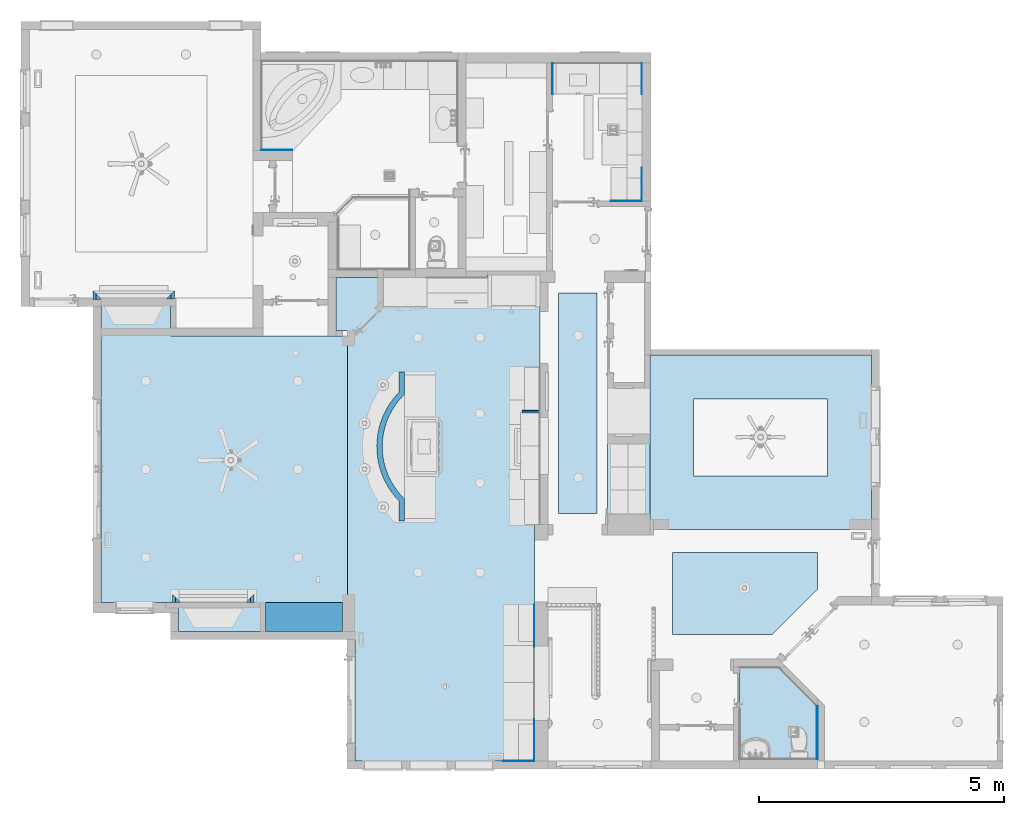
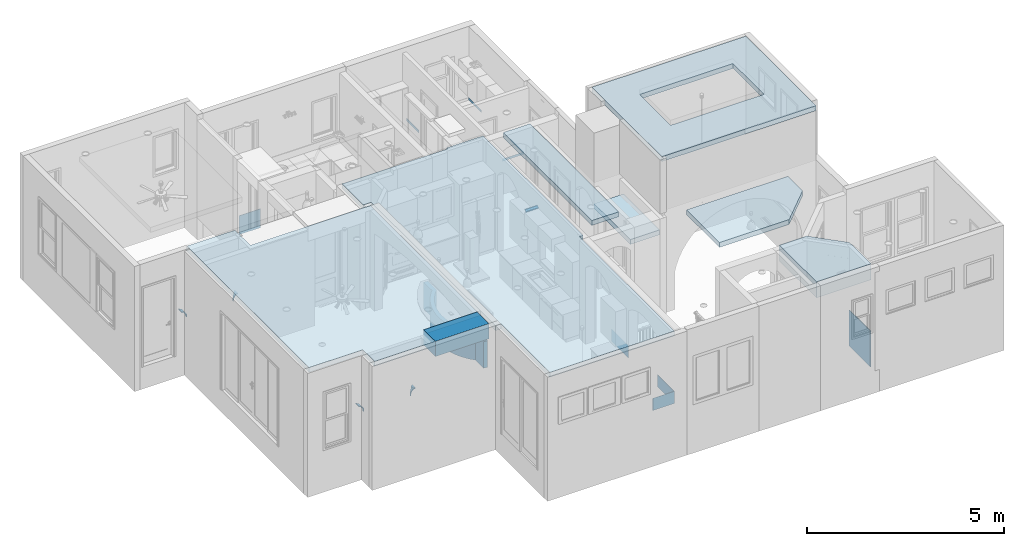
# One storey, part 4 of 77: 14 beams, 9 slabs.
"""IFC2X3 building model written with IfcOpenShell, lengths in inches."""

from ifc_helpers import new_model, entity, si_unit, converted_unit, derived_unit, money_unit, direction, frame, origin_with_axes, place, context, subcontext, project, spatial, faceted_brep, material, type_object, element, save


model = new_model("IFC2X3")

# Units and contexts
model_context = context("Model", 3, precision=0.000393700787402, world=origin_with_axes(), true_north=direction((0.0, 1.0)))
body_context = subcontext(model_context, "Body", "Model", "MODEL_VIEW")
ifc_project = project(units=[converted_unit("LENGTHUNIT", "INCH", entity("IfcPositiveLengthMeasure", 0.0254), si_unit("LENGTHUNIT", "METRE"), dimensions=[1, 0, 0, 0, 0, 0, 0]), converted_unit("AREAUNIT", "SQUARE_FOOT", entity("IfcPositiveLengthMeasure", 0.09290304), si_unit("AREAUNIT", "SQUARE_METRE"), dimensions=[2, 0, 0, 0, 0, 0, 0]), si_unit("PLANEANGLEUNIT", "RADIAN"), si_unit("SOLIDANGLEUNIT", "STERADIAN"), money_unit("USD"), converted_unit("TIMEUNIT", "Year", entity("IfcTimeMeasure", 31556926.0), si_unit("TIMEUNIT", "SECOND"), dimensions=[0, 0, 1, 0, 0, 0, 0]), si_unit("MASSUNIT", "GRAM", prefix="KILO"), si_unit("THERMODYNAMICTEMPERATUREUNIT", "DEGREE_CELSIUS"), si_unit("LUMINOUSINTENSITYUNIT", "LUMEN"), si_unit("ENERGYUNIT", "JOULE", prefix="MEGA"), derived_unit("THERMALCONDUCTANCEUNIT", [(si_unit("POWERUNIT", "WATT"), 1), (si_unit("LENGTHUNIT", "METRE"), -1), (si_unit("THERMODYNAMICTEMPERATUREUNIT", "KELVIN"), -1)]), derived_unit("SPECIFICHEATCAPACITYUNIT", [(si_unit("ENERGYUNIT", "JOULE"), 1), (si_unit("MASSUNIT", "GRAM", prefix="KILO"), -1), (si_unit("THERMODYNAMICTEMPERATUREUNIT", "KELVIN"), -1)]), derived_unit("MASSDENSITYUNIT", [(si_unit("MASSUNIT", "GRAM", prefix="KILO"), 1), (si_unit("VOLUMEUNIT", "CUBIC_METRE"), -1)])], contexts=[model_context])

# Site, building, storey
site_placement = place(None, origin_with_axes())
site = spatial("IfcSite", under=ifc_project, at=site_placement, Name="Site", CompositionType="ELEMENT")
building_placement = place(site_placement, origin_with_axes())
building = spatial("IfcBuilding", under=site, at=building_placement, Name="Building", CompositionType="ELEMENT")
storey_placement = place(building_placement, frame((0.0, 0.0, 127.952755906), z_axis=(0.0, 0.0, 1.0), x_axis=(1.0, 0.0, 0.0)))
storey = spatial("IfcBuildingStorey", under=building, at=storey_placement, Name="Second Floor", CompositionType="ELEMENT", Elevation=127.953)

# Beams
ifc_material_1 = material(Name="Generic - Structural")
beam_type_1 = type_object("IfcBeamType", Name="Plaster Cornice/Coving 65 x 65", PredefinedType="NOTDEFINED")
beam_1_placement = place(storey_placement, frame((637.476568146, 299.514838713, 105.504011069), z_axis=(0.0, 0.0, 1.0), x_axis=(0.0, 1.0, 0.0)))
element("IfcBeam", 1, at=beam_1_placement, inside=storey, type_object=beam_type_1, material=ifc_material_1, Name="BMR - 041", context=body_context, shape_type="Brep", body=[
    faceted_brep([(2.5592031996, 0.0, 0.0), (2.5592031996, 14.4869247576, 0.0), (1.49914652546, 14.4869247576, 0.0), (1.49914652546, 0.0, 0.0), (2.5592031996, 0.0, -0.319891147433), (2.5592031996, 14.4869247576, -0.319891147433), (1.8672290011, 14.4869247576, -0.429478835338), (1.24298688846, 14.4869247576, -0.747534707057), (0.74758202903, 14.4869247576, -1.24292523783), (0.429508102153, 14.4869247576, -1.86715815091), (0.31990039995, 14.4869247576, -2.55912917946), (0.0, 14.4869247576, -2.55912917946), (0.0, 14.4869247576, -1.49910316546), (0.0, 0.0, -1.49910316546), (0.0, 0.0, -2.55912917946), (0.31990039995, 0.0, -2.55912917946), (0.429508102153, 0.0, -1.86715815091), (0.74758202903, 0.0, -1.24292523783), (1.24298688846, 0.0, -0.747534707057), (1.8672290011, 0.0, -0.429478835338)], [[[0, 1, 2, 3]], [[4, 5, 1, 0]], [[2, 1, 5, 6, 7, 8, 9, 10, 11, 12]], [[3, 2, 12, 13]], [[4, 0, 3, 13, 14, 15, 16, 17, 18, 19]], [[19, 6, 5, 4]], [[18, 7, 6, 19]], [[17, 8, 7, 18]], [[16, 9, 8, 17]], [[15, 10, 9, 16]], [[14, 11, 10, 15]], [[13, 12, 11, 14]]]),
])
ifc_material_2 = material(Name="Tile - Wall")
beam_type_2 = type_object("IfcBeamType", Name="Tile - Wall 15 x 1120", PredefinedType="NOTDEFINED")
beam_2_placement = place(storey_placement, frame((860.908419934, 20.7811880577, 0.0), z_axis=(0.0, 0.0, 1.0), x_axis=(1.0, 0.0, 0.0)))
element("IfcBeam", 2, at=beam_2_placement, inside=storey, type_object=beam_type_2, material=ifc_material_2, Name="BMR - 113", context=body_context, shape_type="Brep", body=[
    faceted_brep([(0.0, 0.0, 44.094488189), (0.0, 0.0, 0.0157480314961), (0.0, 42.8179321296, 0.0157480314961), (0.0, 42.8179321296, 44.094488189), (-0.590551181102, 0.590551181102, 44.094488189), (-0.590551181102, 0.590551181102, 0.0157480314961), (-0.590551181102, 42.6373262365, 0.0157480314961), (-0.0452453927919, 42.8632614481, 0.0157480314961), (-0.0452453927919, 42.8632614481, 44.094488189), (-0.590551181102, 42.6373262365, 44.094488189)], [[[0, 1, 2, 3]], [[4, 5, 1, 0]], [[6, 7, 2, 1, 5]], [[3, 2, 7, 8]], [[4, 0, 3, 8, 9]], [[9, 6, 5, 4]], [[8, 7, 6, 9]]]),
])
beam_type_3 = type_object("IfcBeamType", Name="Plaster Cornice/Coving 150 x 205", PredefinedType="NOTDEFINED")
beam_3_placement = place(storey_placement, frame((401.338774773, 147.656946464, 57.0866141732), z_axis=(0.0, 0.0, 1.0), x_axis=(-1.0, 0.0, 0.0)))
element("IfcBeam", 3, at=beam_3_placement, inside=storey, type_object=beam_type_3, material=ifc_material_1, Name="BMR - 041", context=body_context, shape_type="Brep", body=[
    faceted_brep([(-5.90552638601, -5.90552638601, -1.0088593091), (-5.90552638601, 0.719655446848, -1.0088593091), (-4.88176828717, 0.719655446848, -1.14877721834), (-4.88176828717, -4.88176828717, -1.14877721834), (-5.90552638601, -5.90552638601, 0.0), (-5.90552638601, 0.719655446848, 0.0), (-3.45937726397, 0.719655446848, 0.0), (0.0, 0.719655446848, -4.72780880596), (0.0, 0.719655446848, -8.07087447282), (-0.738190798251, 0.719655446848, -8.07087447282), (-0.835718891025, 0.719655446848, -6.70518667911), (-1.13153079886, 0.719655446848, -5.36835827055), (-1.5951648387, 0.719655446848, -4.17566887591), (-2.25166835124, 0.719655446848, -3.07727566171), (-3.00852865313, 0.719655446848, -2.22277367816), (-3.9280726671, 0.719655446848, -1.54642320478), (-3.9280726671, -3.9280726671, -1.54642320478), (-3.00852865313, -3.00852865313, -2.22277367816), (-2.25166835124, -2.25166835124, -3.07727566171), (-1.5951648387, -1.5951648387, -4.17566887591), (-1.13153079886, -1.13153079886, -5.36835827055), (-0.835718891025, -0.835718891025, -6.70518667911), (-0.738190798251, -0.738190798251, -8.07087447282), (0.0, 0.0, -8.07087447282), (0.0, 0.0, -4.72780880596), (-3.45937726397, -3.45937726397, 0.0)], [[[0, 1, 2, 3]], [[4, 5, 1, 0]], [[2, 1, 5, 6, 7, 8, 9, 10, 11, 12, 13, 14, 15]], [[3, 2, 15, 16]], [[4, 0, 3, 16, 17, 18, 19, 20, 21, 22, 23, 24, 25]], [[25, 6, 5, 4]], [[24, 7, 6, 25]], [[23, 8, 7, 24]], [[22, 9, 8, 23]], [[21, 10, 9, 22]], [[20, 11, 10, 21]], [[19, 12, 11, 20]], [[18, 13, 12, 19]], [[17, 14, 13, 18]], [[16, 15, 14, 17]]]),
])
beam_4_placement = place(storey_placement, frame((283.880866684, 390.689598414, 46.8503937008), z_axis=(0.0, 0.0, 1.0), x_axis=(1.0, -4.61206149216e-08, 0.0)))
element("IfcBeam", 4, at=beam_4_placement, inside=storey, type_object=beam_type_3, material=ifc_material_1, Name="BMR - 041", context=body_context, shape_type="Brep", body=[
    faceted_brep([(-5.90552638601, 0.0, -1.0088593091), (-5.90552638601, 7.12309997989, -1.0088593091), (-4.88176828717, 6.09934192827, -1.14877721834), (-4.88176828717, 0.0, -1.14877721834), (-5.90552638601, 0.0, 0.0), (-5.90552638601, 7.12309997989, 0.0), (-3.45937726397, 4.67695097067, 0.0), (0.0, 1.21757386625, -4.72780880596), (0.0, 1.21757386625, -8.07087447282), (-0.738190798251, 1.95576463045, -8.07087447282), (-0.835718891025, 2.05329271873, -6.70518667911), (-1.13153079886, 2.34910461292, -5.36835827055), (-1.5951648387, 2.81273863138, -4.17566887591), (-2.25166835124, 3.46924211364, -3.07727566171), (-3.00852865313, 4.22610238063, -2.22277367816), (-3.9280726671, 5.14564635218, -1.54642320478), (-3.9280726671, 0.0, -1.54642320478), (-3.00852865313, 0.0, -2.22277367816), (-2.25166835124, 0.0, -3.07727566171), (-1.5951648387, 0.0, -4.17566887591), (-1.13153079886, 0.0, -5.36835827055), (-0.835718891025, 0.0, -6.70518667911), (-0.738190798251, 0.0, -8.07087447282), (0.0, 0.0, -8.07087447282), (0.0, 0.0, -4.72780880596), (-3.45937726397, 0.0, 0.0)], [[[0, 1, 2, 3]], [[4, 5, 1, 0]], [[2, 1, 5, 6, 7, 8, 9, 10, 11, 12, 13, 14, 15]], [[3, 2, 15, 16]], [[4, 0, 3, 16, 17, 18, 19, 20, 21, 22, 23, 24, 25]], [[25, 6, 5, 4]], [[24, 7, 6, 25]], [[23, 8, 7, 24]], [[22, 9, 8, 23]], [[21, 10, 9, 22]], [[20, 11, 10, 21]], [[19, 12, 11, 20]], [[18, 13, 12, 19]], [[17, 14, 13, 18]], [[16, 15, 14, 17]]]),
])
beam_5_placement = place(storey_placement, frame((347.850842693, 146.800922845, 57.0866141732), z_axis=(0.0, 0.0, 1.0), x_axis=(1.0, -4.61206549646e-08, 0.0)))
element("IfcBeam", 5, at=beam_5_placement, inside=storey, type_object=beam_type_3, material=ifc_material_1, Name="BMR - 041", context=body_context, shape_type="Brep", body=[
    faceted_brep([(-5.90552638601, 0.0, -1.0088593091), (-5.90552638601, 6.76154973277, -1.0088593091), (-4.88176828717, 5.73779168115, -1.14877721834), (-4.88176828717, 0.0, -1.14877721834), (-5.90552638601, 0.0, 0.0), (-5.90552638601, 6.76154973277, 0.0), (-3.45937726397, 4.31540072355, 0.0), (0.0, 0.856023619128, -4.72780880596), (0.0, 0.856023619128, -8.07087447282), (-0.738190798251, 1.59421438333, -8.07087447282), (-0.835718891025, 1.69174247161, -6.70518667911), (-1.13153079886, 1.9875543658, -5.36835827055), (-1.5951648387, 2.45118838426, -4.17566887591), (-2.25166835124, 3.10769186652, -3.07727566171), (-3.00852865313, 3.86455213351, -2.22277367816), (-3.9280726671, 4.78409610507, -1.54642320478), (-3.9280726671, 0.0, -1.54642320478), (-3.00852865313, 0.0, -2.22277367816), (-2.25166835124, 0.0, -3.07727566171), (-1.5951648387, 0.0, -4.17566887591), (-1.13153079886, 0.0, -5.36835827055), (-0.835718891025, 0.0, -6.70518667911), (-0.738190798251, 0.0, -8.07087447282), (0.0, 0.0, -8.07087447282), (0.0, 0.0, -4.72780880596), (-3.45937726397, 0.0, 0.0)], [[[0, 1, 2, 3]], [[4, 5, 1, 0]], [[2, 1, 5, 6, 7, 8, 9, 10, 11, 12, 13, 14, 15]], [[3, 2, 15, 16]], [[4, 0, 3, 16, 17, 18, 19, 20, 21, 22, 23, 24, 25]], [[25, 6, 5, 4]], [[24, 7, 6, 25]], [[23, 8, 7, 24]], [[22, 9, 8, 23]], [[21, 10, 9, 22]], [[20, 11, 10, 21]], [[19, 12, 11, 20]], [[18, 13, 12, 19]], [[17, 14, 13, 18]], [[16, 15, 14, 17]]]),
])
beam_6_placement = place(storey_placement, frame((337.36879878, 391.90717228, 46.8503937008), z_axis=(0.0, 0.0, 1.0), x_axis=(-1.0, 3.60545296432e-07, 0.0)))
element("IfcBeam", 6, at=beam_6_placement, inside=storey, type_object=beam_type_3, material=ifc_material_1, Name="BMR - 041", context=body_context, shape_type="Brep", body=[
    faceted_brep([(-5.90552638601, -5.90552851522, -1.0088593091), (-5.90552638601, 0.719655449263, -1.0088593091), (-4.88176828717, 0.719655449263, -1.14877721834), (-4.88176828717, -4.88177004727, -1.14877721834), (-5.90552638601, -5.90552851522, 0.0), (-5.90552638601, 0.719655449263, 0.0), (-3.45937726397, 0.719655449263, 0.0), (0.0, 0.719655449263, -4.72780880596), (0.0, 0.719655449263, -8.07087447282), (-0.738190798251, 0.719655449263, -8.07087447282), (-0.835718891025, 0.719655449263, -6.70518667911), (-1.13153079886, 0.719655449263, -5.36835827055), (-1.5951648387, 0.719655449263, -4.17566887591), (-2.25166835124, 0.719655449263, -3.07727566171), (-3.00852865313, 0.719655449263, -2.22277367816), (-3.9280726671, 0.719655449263, -1.54642320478), (-3.9280726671, -3.92807408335, -1.54642320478), (-3.00852865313, -3.00852973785, -2.22277367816), (-2.25166835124, -2.25166916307, -3.07727566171), (-1.5951648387, -1.59516541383, -4.17566887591), (-1.13153079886, -1.13153120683, -5.36835827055), (-0.835718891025, -0.83571919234, -6.70518667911), (-0.738190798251, -0.738191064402, -8.07087447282), (0.0, 0.0, -8.07087447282), (0.0, 0.0, -4.72780880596), (-3.45937726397, -3.45937851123, 0.0)], [[[0, 1, 2, 3]], [[4, 5, 1, 0]], [[2, 1, 5, 6, 7, 8, 9, 10, 11, 12, 13, 14, 15]], [[3, 2, 15, 16]], [[4, 0, 3, 16, 17, 18, 19, 20, 21, 22, 23, 24, 25]], [[25, 6, 5, 4]], [[24, 7, 6, 25]], [[23, 8, 7, 24]], [[22, 9, 8, 23]], [[21, 10, 9, 22]], [[20, 11, 10, 21]], [[19, 12, 11, 20]], [[18, 13, 12, 19]], [[17, 14, 13, 18]], [[16, 15, 14, 17]]]),
])
beam_type_4 = type_object("IfcBeamType", Name="Tile - Wall 5 x 380", PredefinedType="NOTDEFINED")
beam_7_placement = place(storey_placement, frame((607.989643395, 19.4071723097, 36.0236220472), z_axis=(0.0, 0.0, 1.0), x_axis=(1.70476248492e-05, -0.999999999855, 0.0)))
element("IfcBeam", 7, at=beam_7_placement, inside=storey, type_object=beam_type_4, material=ifc_material_2, Name="BMR - 041", context=body_context, shape_type="Brep", body=[
    faceted_brep([(-0.196850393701, 24.7795309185, 14.9606299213), (-0.196850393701, 0.0, 14.9606299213), (0.0, 0.0, 14.9606299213), (0.0004220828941, 24.7795275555, 14.9606299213), (-0.196850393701, 24.7795309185, 0.0), (-0.196850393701, 0.0, 0.0), (0.0, 0.0, 0.0), (0.0004220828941, 24.7795275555, 0.0)], [[[0, 1, 2, 3]], [[4, 5, 1, 0]], [[5, 6, 2, 1]], [[3, 2, 6, 7]], [[0, 3, 7, 4]], [[7, 6, 5, 4]]]),
])
beam_8_placement = place(storey_placement, frame((632.966021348, 110.907172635, 36.0236220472), z_axis=(0.0, 0.0, 1.0), x_axis=(1.0, 0.0, 0.0)))
element("IfcBeam", 8, at=beam_8_placement, inside=storey, type_object=beam_type_4, material=ifc_material_2, Name="BMR - 041", context=body_context, shape_type="Brep", body=[
    faceted_brep([(-0.196850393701, 0.0, 0.0), (-0.196850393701, 34.4488188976, 0.0), (0.0, 34.4488188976, 0.0), (0.0, 0.0, 0.0), (-0.196850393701, 0.0, 14.9606299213), (-0.196850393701, 34.4488188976, 14.9606299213), (0.0, 34.4488188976, 14.9606299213), (0.0, 0.0, 14.9606299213)], [[[0, 1, 2, 3]], [[4, 5, 1, 0]], [[2, 1, 5, 6]], [[3, 2, 6, 7]], [[4, 0, 3, 7]], [[7, 6, 5, 4]]]),
])
beam_9_placement = place(storey_placement, frame((632.966021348, 19.4071726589, 36.0236220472), z_axis=(0.0, 0.0, 1.0), x_axis=(1.0, 0.0, 0.0)))
element("IfcBeam", 9, at=beam_9_placement, inside=storey, type_object=beam_type_4, material=ifc_material_2, Name="BMR - 041", context=body_context, shape_type="Brep", body=[
    faceted_brep([(-0.196850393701, 33.4645669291, 14.9606299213), (-0.196850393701, 0.000423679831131, 14.9606299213), (0.0, 0.000424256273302, 14.9606299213), (0.0, 33.4645669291, 14.9606299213), (-0.196850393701, 33.4645669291, 0.0), (-0.196850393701, 0.000423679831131, 0.0), (0.0, 0.000424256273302, 0.0), (0.0, 33.4645669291, 0.0)], [[[0, 1, 2, 3]], [[4, 5, 1, 0]], [[5, 6, 2, 1]], [[3, 2, 6, 7]], [[3, 7, 4, 0]], [[7, 6, 5, 4]]]),
])
beam_type_5 = type_object("IfcBeamType", Name="Tile - Wall 6 x 76", PredefinedType="NOTDEFINED")
beam_10_placement = place(storey_placement, frame((719.519445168, 555.90717231, 36.0), z_axis=(0.0, 0.0, 1.0), x_axis=(1.0, 5.35865912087e-07, 0.0)))
element("IfcBeam", 10, at=beam_10_placement, inside=storey, type_object=beam_type_5, material=ifc_material_2, Name="BMR - 041", context=body_context, shape_type="Brep", body=[
    faceted_brep([(0.0, 0.0, 0.0), (-0.25, 0.0, 0.0), (-0.25, 24.8572540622, 0.0), (0.0, 25.1072539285, 0.0), (0.0, 0.0, 3.0), (-0.25, 0.0, 3.0), (-0.25, 24.8572540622, 3.0), (0.0, 25.1072539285, 3.0)], [[[0, 1, 2, 3]], [[4, 5, 1, 0]], [[1, 5, 6, 2]], [[7, 3, 2, 6]], [[4, 0, 3, 7]], [[5, 4, 7, 6]]]),
])
beam_11_placement = place(storey_placement, frame((719.519431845, 470.00831258, 37.0), z_axis=(0.0, 0.0, 1.0), x_axis=(0.999999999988, 4.87299832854e-06, 0.0)))
element("IfcBeam", 11, at=beam_11_placement, inside=storey, type_object=beam_type_5, material=ifc_material_2, Name="BMR - 041", context=body_context, shape_type="Brep", body=[
    faceted_brep([(-0.25, 0.250001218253, 0.0), (-0.25, 26.9301097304, 0.0), (0.0, 26.9301097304, 0.0), (0.0, 0.0, 0.0), (-0.25, 0.250001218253, 3.0), (-0.25, 26.9301097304, 3.0), (0.0, 26.9301097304, 3.0), (0.0, 0.0, 3.0)], [[[0, 1, 2, 3]], [[4, 5, 1, 0]], [[2, 1, 5, 6]], [[3, 2, 6, 7]], [[4, 0, 3, 7]], [[7, 6, 5, 4]]]),
])
beam_12_placement = place(storey_placement, frame((694.489459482, 470.00831258, 37.0), z_axis=(0.0, 0.0, 1.0), x_axis=(0.0, -1.0, 0.0)))
element("IfcBeam", 12, at=beam_12_placement, inside=storey, type_object=beam_type_5, material=ifc_material_2, Name="BMR - 041", context=body_context, shape_type="Brep", body=[
    faceted_brep([(-0.25, 0.0, 0.0), (-0.25, 24.7799711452, 0.0), (0.0, 25.0299723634, 0.0), (0.0, 0.0, 0.0), (-0.25, 0.0, 3.0), (-0.25, 24.7799711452, 3.0), (0.0, 25.0299723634, 3.0), (0.0, 0.0, 3.0)], [[[0, 1, 2, 3]], [[4, 5, 1, 0]], [[2, 1, 5, 6]], [[3, 2, 6, 7]], [[4, 0, 3, 7]], [[7, 6, 5, 4]]]),
])
beam_13_placement = place(storey_placement, frame((647.489643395, 581.014426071, 36.0), z_axis=(0.0, 0.0, 1.0), x_axis=(-1.0, -5.40890327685e-07, 0.0)))
element("IfcBeam", 13, at=beam_13_placement, inside=storey, type_object=beam_type_5, material=ifc_material_2, Name="BMR - 041", context=body_context, shape_type="Brep", body=[
    faceted_brep([(-0.25, 0.250000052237, 0.0), (-0.25, 25.0760037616, 0.0), (0.0, 25.0760037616, 0.0), (0.0, -8.26924180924e-08, 0.0), (-0.25, 0.250000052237, 3.0), (-0.25, 25.0760037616, 3.0), (0.0, 25.0760037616, 3.0), (0.0, -8.26924180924e-08, 3.0)], [[[0, 1, 2, 3]], [[4, 5, 1, 0]], [[2, 1, 5, 6]], [[3, 2, 6, 7]], [[4, 0, 3, 7]], [[7, 6, 5, 4]]]),
])
beam_type_6 = type_object("IfcBeamType", Name="Tile - Wall 15 x 585", PredefinedType="NOTDEFINED")
beam_14_placement = place(storey_placement, frame((413.239643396, 510.813300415, 20.9999999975), z_axis=(0.0, 0.0, 1.0), x_axis=(0.0, -1.0, 0.0)))
element("IfcBeam", 14, at=beam_14_placement, inside=storey, type_object=beam_type_6, material=ifc_material_2, Name="BMR - 115", context=body_context, shape_type="Brep", body=[
    faceted_brep([(-0.590551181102, 0.590551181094, 0.0), (-0.590551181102, 25.0, 0.0), (0.0, 25.0, 0.0), (0.0, 0.0, 0.0), (-0.590551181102, 0.590551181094, 23.031496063), (-0.590551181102, 25.0, 23.031496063), (0.0, 25.0, 23.031496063), (0.0, 0.0, 23.031496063)], [[[0, 1, 2, 3]], [[4, 5, 1, 0]], [[2, 1, 5, 6]], [[3, 2, 6, 7]], [[4, 0, 3, 7]], [[7, 6, 5, 4]]]),
])

# Slabs
slab_type_1 = type_object("IfcSlabType", Name="Generic - Structural 495", PredefinedType="FLOOR")
slab_1_placement = place(storey_placement, frame((797.915918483, 20.7811881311, 106.5), z_axis=(0.0, 0.0, 1.0), x_axis=(1.0, 0.0, 0.0)))
element("IfcSlab", 15, at=slab_1_placement, inside=storey, type_object=slab_type_1, material=ifc_material_1, Name="SLA - 009", PredefinedType="FLOOR", context=body_context, shape_type="Brep", body=[
    faceted_brep([(0.0, 0.0, 19.5), (0.0, 0.0, 0.0), (62.9925014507, -7.34150841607e-08, 0.0), (62.9925014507, -7.34150841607e-08, 19.5), (0.00241960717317, 74.2118674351, 19.5), (0.00241960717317, 74.2118674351, 0.0), (31.6514605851, 74.2108543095, 0.0), (62.9925014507, 42.8820077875, 0.0), (62.9925014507, 42.8820077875, 19.5), (31.6514605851, 74.2108543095, 19.5)], [[[0, 1, 2, 3]], [[4, 5, 1, 0]], [[2, 1, 5, 6, 7]], [[3, 2, 7, 8]], [[4, 0, 3, 8, 9]], [[9, 6, 5, 4]], [[8, 7, 6, 9]]]),
])
slab_type_2 = type_object("IfcSlabType", Name="Generic - Structural 150", PredefinedType="FLOOR")
slab_2_placement = place(storey_placement, frame((473.469157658, 365.907173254, 118.503937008), z_axis=(0.0, 0.0, 1.0), x_axis=(1.0, 0.0, 0.0)))
element("IfcSlab", 16, at=slab_2_placement, inside=storey, type_object=slab_type_2, material=ifc_material_1, Name="SLA - 010", PredefinedType="FLOOR", context=body_context, shape_type="Brep", body=[
    faceted_brep([(0.0, 0.0, 5.90551181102), (0.0, 0.0, 0.0), (8.97126250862, 0.0, 0.0), (8.97126250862, 0.0, 5.90551181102), (0.0, 42.500907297, 5.90551181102), (0.0, 42.500907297, 0.0), (122.000016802, 42.500907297, 0.0), (121.999999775, 44.5009096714, 0.0), (163.992486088, 44.4541121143, 0.0), (164.010541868, 15.2505387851, 0.0), (164.00707263, -26.4817445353, 0.0), (164.000000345, -156.035432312, 0.0), (159.476380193, -156.035432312, 0.0), (159.496863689, -218.500000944, 0.0), (159.500002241, -346.499999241, 0.0), (15.3826389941, -346.499979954, 0.0), (15.3825801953, -248.999913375, 0.0), (9.00118501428, -248.999999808, 0.0), (9.00118501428, -248.999999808, 5.90551181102), (15.3825801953, -248.999913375, 5.90551181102), (15.3826389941, -346.499979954, 5.90551181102), (159.500002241, -346.499999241, 5.90551181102), (159.496863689, -218.500000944, 5.90551181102), (159.476380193, -156.035432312, 5.90551181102), (164.000000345, -156.035432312, 5.90551181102), (164.00707263, -26.4817445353, 5.90551181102), (164.010541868, 15.2505387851, 5.90551181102), (163.992486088, 44.4541121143, 5.90551181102), (121.999999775, 44.5009096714, 5.90551181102), (122.000016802, 42.500907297, 5.90551181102)], [[[0, 1, 2, 3]], [[4, 5, 1, 0]], [[2, 1, 5, 6, 7, 8, 9, 10, 11, 12, 13, 14, 15, 16, 17]], [[3, 2, 17, 18]], [[4, 0, 3, 18, 19, 20, 21, 22, 23, 24, 25, 26, 27, 28, 29]], [[29, 6, 5, 4]], [[28, 7, 6, 29]], [[27, 8, 7, 28]], [[26, 9, 8, 27]], [[25, 10, 9, 26]], [[24, 11, 10, 25]], [[23, 12, 11, 24]], [[22, 13, 12, 23]], [[21, 14, 13, 22]], [[20, 15, 14, 21]], [[19, 16, 15, 20]], [[18, 17, 16, 19]]]),
])
slab_3_placement = place(storey_placement, frame((340.239642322, 391.907093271, 118.503937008), z_axis=(0.0, 0.0, 1.0), x_axis=(1.0, 0.0, 0.0)))
element("IfcSlab", 17, at=slab_3_placement, inside=storey, type_object=slab_type_2, material=ifc_material_1, Name="SLA - 014", PredefinedType="FLOOR", context=body_context, shape_type="Brep", body=[
    faceted_brep([(0.0, 0.0, 5.90551181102), (0.0, 0.0, 0.0), (-55.9060667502, 8.05895860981e-05, 0.0), (-55.9060667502, 8.05895860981e-05, 5.90551181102), (0.0, -30.4999209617, 5.90551181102), (0.0, -30.4999209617, 0.0), (74.5718799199, -30.5342596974, 0.0), (126.754655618, -30.5274800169, 0.0), (142.221270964, -30.5267829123, 0.0), (142.251529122, -244.743791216, 0.0), (76.5715813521, -244.74424546, 0.0), (76.5708383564, -268.359895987, 0.0), (6.31667133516, -268.362611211, 0.0), (6.25000061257, -244.744645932, 0.0), (-55.904634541, -244.744645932, 0.0), (-55.9061772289, -30.5006363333, 0.0), (-55.9059264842, -24.0006363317, 0.0), (-55.9059264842, -24.0006363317, 5.90551181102), (-55.9061772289, -30.5006363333, 5.90551181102), (-55.904634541, -244.744645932, 5.90551181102), (6.25000061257, -244.744645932, 5.90551181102), (6.31667133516, -268.362611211, 5.90551181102), (76.5708383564, -268.359895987, 5.90551181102), (76.5715813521, -244.74424546, 5.90551181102), (142.251529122, -244.743791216, 5.90551181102), (142.221270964, -30.5267829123, 5.90551181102), (126.754655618, -30.5274800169, 5.90551181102), (74.5718799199, -30.5342596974, 5.90551181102)], [[[0, 1, 2, 3]], [[4, 5, 1, 0]], [[2, 1, 5, 6, 7, 8, 9, 10, 11, 12, 13, 14, 15, 16]], [[3, 2, 16, 17]], [[4, 0, 3, 17, 18, 19, 20, 21, 22, 23, 24, 25, 26, 27]], [[27, 6, 5, 4]], [[26, 7, 6, 27]], [[25, 8, 7, 26]], [[24, 9, 8, 25]], [[23, 10, 9, 24]], [[22, 11, 10, 23]], [[21, 12, 11, 22]], [[20, 13, 12, 21]], [[19, 14, 13, 20]], [[18, 15, 14, 19]], [[17, 16, 15, 18]]]),
])
slab_4_placement = place(storey_placement, frame((725.989643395, 205.615874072, 186.023622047), z_axis=(0.0, 0.0, 1.0), x_axis=(1.0, 0.0, 0.0)))
element("IfcSlab", 18, at=slab_4_placement, inside=storey, type_object=slab_type_2, material=ifc_material_1, Name="SLA - 007", PredefinedType="FLOOR", context=body_context, shape_type="Brep", body=[
    faceted_brep([(0.0, 0.0, 5.90551181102), (0.0, 0.0, 0.0), (178.230488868, -0.00709961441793, 0.0), (178.230488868, -0.00709961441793, 5.90551181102), (0.0, 113.791298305, 5.90551181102), (0.0, 113.791298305, 0.0), (0.036260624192, 113.790939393, 0.0), (0.0376603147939, 140.355878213, 0.0), (178.233907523, 140.35292105, 0.0), (143.00000149, 105.291297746, 0.0), (34.9999985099, 105.291297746, 0.0), (34.9999985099, 43.2912977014, 0.0), (143.00000149, 43.2912977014, 0.0), (178.233907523, 140.35292105, 5.90551181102), (0.0376603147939, 140.355878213, 5.90551181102), (0.036260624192, 113.790939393, 5.90551181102), (34.9999985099, 43.2912977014, 5.90551181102), (34.9999985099, 105.291297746, 5.90551181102), (143.00000149, 105.291297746, 5.90551181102), (143.00000149, 43.2912977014, 5.90551181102)], [[[0, 1, 2, 3]], [[4, 5, 1, 0]], [[2, 1, 5, 6, 7, 8], [9, 10, 11, 12]], [[3, 2, 8, 13]], [[0, 3, 13, 14, 15, 4], [16, 17, 18, 19]], [[15, 6, 5, 4]], [[14, 7, 6, 15]], [[13, 8, 7, 14]], [[17, 10, 9, 18]], [[16, 11, 10, 17]], [[19, 12, 11, 16]], [[18, 9, 12, 19]]]),
])
slab_5_placement = place(storey_placement, frame((691.989643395, 209.938422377, 94.094488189), z_axis=(0.0, 0.0, 1.0), x_axis=(1.0, 0.0, 0.0)))
element("IfcSlab", 19, at=slab_5_placement, inside=storey, type_object=slab_type_2, material=ifc_material_1, Name="SLA - 008", PredefinedType="FLOOR", context=body_context, shape_type="Brep", body=[
    faceted_brep([(0.0, 0.0, 5.90551181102), (0.0, 0.0, 0.0), (34.0, 0.0, 0.0), (34.0, 0.0, 5.90551181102), (0.0, 72.4715915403, 5.90551181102), (0.0, 72.4715915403, 0.0), (34.0, 72.4715915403, 0.0), (34.0, 72.4715915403, 5.90551181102)], [[[0, 1, 2, 3]], [[4, 5, 1, 0]], [[2, 1, 5, 6]], [[3, 2, 6, 7]], [[4, 0, 3, 7]], [[7, 6, 5, 4]]]),
])
slab_6_placement = place(storey_placement, frame((743.989644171, 121.40717231, 126.0), z_axis=(0.0, 0.0, 1.0), x_axis=(1.0, 0.0, 0.0)))
element("IfcSlab", 20, at=slab_6_placement, inside=storey, type_object=slab_type_2, material=ifc_material_1, Name="SLA - 016", PredefinedType="FLOOR", context=body_context, shape_type="Brep", body=[
    faceted_brep([(0.0, 0.0, 5.90551181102), (0.0, 0.0, 0.0), (80.5057280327, 0.0, 0.0), (80.5057280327, 0.0, 5.90551181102), (0.0, 66.0, 5.90551181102), (0.0, 66.0, 0.0), (117.000005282, 66.0, 0.0), (117.000005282, 36.4942772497, 0.0), (117.000005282, 36.4942772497, 5.90551181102), (117.000005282, 66.0, 5.90551181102)], [[[0, 1, 2, 3]], [[4, 5, 1, 0]], [[2, 1, 5, 6, 7]], [[3, 2, 7, 8]], [[4, 0, 3, 8, 9]], [[9, 6, 5, 4]], [[8, 7, 6, 9]]]),
])
slab_7_placement = place(storey_placement, frame((652.489643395, 218.40717231, 126.0), z_axis=(0.0, 0.0, 1.0), x_axis=(1.0, 0.0, 0.0)))
element("IfcSlab", 21, at=slab_7_placement, inside=storey, type_object=slab_type_2, material=ifc_material_1, Name="SLA - 018", PredefinedType="FLOOR", context=body_context, shape_type="Brep", body=[
    faceted_brep([(0.0, 0.0, 5.90551181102), (0.0, 0.0, 0.0), (31.0, 0.0, 0.0), (31.0, 0.0, 5.90551181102), (0.0, 177.500909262, 5.90551181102), (0.0, 177.500909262, 0.0), (31.0, 177.500909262, 0.0), (31.0, 177.500909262, 5.90551181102)], [[[0, 1, 2, 3]], [[4, 5, 1, 0]], [[2, 1, 5, 6]], [[3, 2, 6, 7]], [[4, 0, 3, 7]], [[7, 6, 5, 4]]]),
])
slab_type_3 = type_object("IfcSlabType", Name="Generic - Structural 470", PredefinedType="FLOOR")
slab_8_placement = place(storey_placement, frame((416.811205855, 147.162847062, 105.905511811), z_axis=(0.0, 0.0, 1.0), x_axis=(1.0, 0.0, 0.0)))
element("IfcSlab", 22, at=slab_8_placement, inside=storey, type_object=slab_type_3, material=ifc_material_1, Name="SLA - 015", PredefinedType="FLOOR", context=body_context, shape_type="Brep", body=[
    faceted_brep([(0.0, 0.0, 18.5), (0.0, 0.0, 0.0), (-0.000743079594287, -23.6183182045, 0.0), (-0.000743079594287, -23.6183182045, 18.5), (61.9965752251, 0.000429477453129, 18.5), (61.9965752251, 0.000429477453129, 0.0), (61.9963109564, -23.6183346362, 0.0), (61.9963109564, -23.6183346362, 18.5)], [[[0, 1, 2, 3]], [[4, 5, 1, 0]], [[2, 1, 5, 6]], [[3, 2, 6, 7]], [[4, 0, 3, 7]], [[7, 6, 5, 4]]]),
])
slab_type_4 = type_object("IfcSlabType", Name="Generic - Structural 825", PredefinedType="FLOOR")
slab_9_placement = place(storey_placement, frame((523.912751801, 315.924985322, 0.0), z_axis=(0.0, 0.0, 1.0), x_axis=(1.0, 0.0, 0.0)))
element("IfcSlab", 23, at=slab_9_placement, inside=storey, type_object=slab_type_4, material=ifc_material_1, Name="SLA - 010", PredefinedType="FLOOR", context=body_context, shape_type="Brep", body=[
    faceted_brep([(0.0, 0.0, 32.4803149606), (0.0, 0.0, 0.0), (-1.73104508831, -1.77467621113, 0.0), (-1.73104508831, -1.77467621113, 32.4803149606), (0.0, 16.5306488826, 32.4803149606), (0.0, 16.5306488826, 0.0), (4.53937007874, 16.5306488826, 0.0), (4.53937007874, -1.57049710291, 0.0), (2.80487408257, -3.25695155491, 0.0), (-0.373736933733, -6.90480735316, 0.0), (-3.24025383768, -10.8026914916, 0.0), (-5.77509541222, -14.9239774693, 0.0), (-7.96094611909, -19.240512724, 0.0), (-9.78287438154, -23.722810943, 0.0), (-11.2284345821, -28.3402534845, 0.0), (-12.2877520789, -33.061298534, 0.0), (-12.9535906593, -37.8536965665, 0.0), (-13.2214019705, -42.6847106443, 0.0), (-13.0893565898, -47.5213400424, 0.0), (-12.5583565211, -52.330545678, 0.0), (-11.6320290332, -57.0794757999, 0.0), (-10.3167018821, -61.7356904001, 0.0), (-8.62136008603, -66.2673828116, 0.0), (-6.55758454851, -70.6435969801, 0.0), (-4.1394729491, -74.8344389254, 0.0), (-1.38354344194, -78.8112809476, 0.0), (1.69137817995, -82.5469571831, 0.0), (4.53937007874, -85.4429906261, 0.0), (4.53937007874, -103.544136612, 0.0), (0.0, -103.544136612, 0.0), (0.0, -87.013487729, 0.0), (-3.15338647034, -83.6033248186, 0.0), (-6.18809983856, -79.6822936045, 0.0), (-8.90169340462, -75.5325489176, 0.0), (-11.2770109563, -71.1803267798, 0.0), (-13.2990349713, -66.6531433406, 0.0), (-14.9549815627, -61.9796209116, 0.0), (-16.2343813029, -57.1893070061, 0.0), (-17.129145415, -52.312487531, 0.0), (-17.6336169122, -47.3799953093, 0.0), (-17.7446063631, -42.4230151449, 0.0), (-17.4614120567, -37.4728866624, 0.0), (-16.7858244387, -32.5609061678, 0.0), (-15.7221147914, -27.7181287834, 0.0), (-14.2770082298, -22.975172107, 0.0), (-12.4596411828, -18.3620226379, 0.0), (-10.28150363, -13.9078461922, 0.0), (-7.7563664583, -9.64080350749, 0.0), (-4.90019439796, -5.5878722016, 0.0), (-4.90019439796, -5.5878722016, 32.4803149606), (-7.7563664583, -9.64080350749, 32.4803149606), (-10.28150363, -13.9078461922, 32.4803149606), (-12.4596411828, -18.3620226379, 32.4803149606), (-14.2770082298, -22.975172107, 32.4803149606), (-15.7221147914, -27.7181287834, 32.4803149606), (-16.7858244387, -32.5609061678, 32.4803149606), (-17.4614120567, -37.4728866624, 32.4803149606), (-17.7446063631, -42.4230151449, 32.4803149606), (-17.6336169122, -47.3799953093, 32.4803149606), (-17.129145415, -52.312487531, 32.4803149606), (-16.2343813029, -57.1893070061, 32.4803149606), (-14.9549815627, -61.9796209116, 32.4803149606), (-13.2990349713, -66.6531433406, 32.4803149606), (-11.2770109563, -71.1803267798, 32.4803149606), (-8.90169340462, -75.5325489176, 32.4803149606), (-6.18809983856, -79.6822936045, 32.4803149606), (-3.15338647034, -83.6033248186, 32.4803149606), (0.0, -87.013487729, 32.4803149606), (0.0, -103.544136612, 32.4803149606), (4.53937007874, -103.544136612, 32.4803149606), (4.53937007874, -85.4429906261, 32.4803149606), (1.69137817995, -82.5469571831, 32.4803149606), (-1.38354344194, -78.8112809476, 32.4803149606), (-4.1394729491, -74.8344389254, 32.4803149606), (-6.55758454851, -70.6435969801, 32.4803149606), (-8.62136008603, -66.2673828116, 32.4803149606), (-10.3167018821, -61.7356904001, 32.4803149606), (-11.6320290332, -57.0794757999, 32.4803149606), (-12.5583565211, -52.330545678, 32.4803149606), (-13.0893565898, -47.5213400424, 32.4803149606), (-13.2214019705, -42.6847106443, 32.4803149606), (-12.9535906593, -37.8536965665, 32.4803149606), (-12.2877520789, -33.061298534, 32.4803149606), (-11.2284345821, -28.3402534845, 32.4803149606), (-9.78287438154, -23.722810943, 32.4803149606), (-7.96094611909, -19.240512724, 32.4803149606), (-5.77509541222, -14.9239774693, 32.4803149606), (-3.24025383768, -10.8026914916, 32.4803149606), (-0.373736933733, -6.90480735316, 32.4803149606), (2.80487408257, -3.25695155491, 32.4803149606), (4.53937007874, -1.57049710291, 32.4803149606), (4.53937007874, 16.5306488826, 32.4803149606)], [[[0, 1, 2, 3]], [[4, 5, 1, 0]], [[2, 1, 5, 6, 7, 8, 9, 10, 11, 12, 13, 14, 15, 16, 17, 18, 19, 20, 21, 22, 23, 24, 25, 26, 27, 28, 29, 30, 31, 32, 33, 34, 35, 36, 37, 38, 39, 40, 41, 42, 43, 44, 45, 46, 47, 48]], [[3, 2, 48, 49]], [[4, 0, 3, 49, 50, 51, 52, 53, 54, 55, 56, 57, 58, 59, 60, 61, 62, 63, 64, 65, 66, 67, 68, 69, 70, 71, 72, 73, 74, 75, 76, 77, 78, 79, 80, 81, 82, 83, 84, 85, 86, 87, 88, 89, 90, 91]], [[91, 6, 5, 4]], [[90, 7, 6, 91]], [[89, 8, 7, 90]], [[88, 9, 8, 89]], [[87, 10, 9, 88]], [[86, 11, 10, 87]], [[85, 12, 11, 86]], [[84, 13, 12, 85]], [[83, 14, 13, 84]], [[82, 15, 14, 83]], [[81, 16, 15, 82]], [[80, 17, 16, 81]], [[79, 18, 17, 80]], [[78, 19, 18, 79]], [[77, 20, 19, 78]], [[76, 21, 20, 77]], [[75, 22, 21, 76]], [[74, 23, 22, 75]], [[73, 24, 23, 74]], [[72, 25, 24, 73]], [[71, 26, 25, 72]], [[70, 27, 26, 71]], [[69, 28, 27, 70]], [[68, 29, 28, 69]], [[67, 30, 29, 68]], [[66, 31, 30, 67]], [[65, 32, 31, 66]], [[64, 33, 32, 65]], [[63, 34, 33, 64]], [[62, 35, 34, 63]], [[61, 36, 35, 62]], [[60, 37, 36, 61]], [[59, 38, 37, 60]], [[58, 39, 38, 59]], [[57, 40, 39, 58]], [[56, 41, 40, 57]], [[55, 42, 41, 56]], [[54, 43, 42, 55]], [[53, 44, 43, 54]], [[52, 45, 44, 53]], [[51, 46, 45, 52]], [[50, 47, 46, 51]], [[49, 48, 47, 50]]]),
])

save(model, "model.ifc")
